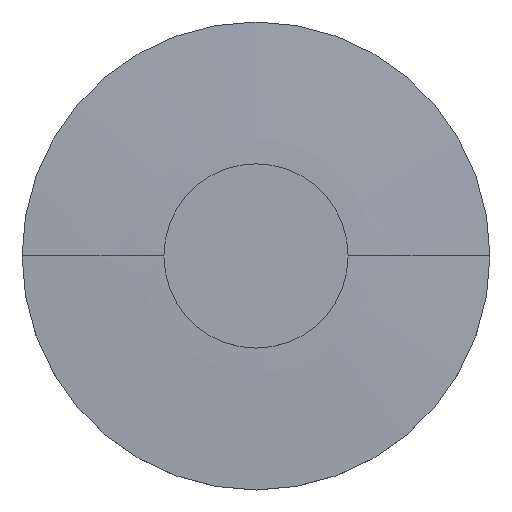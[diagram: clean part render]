
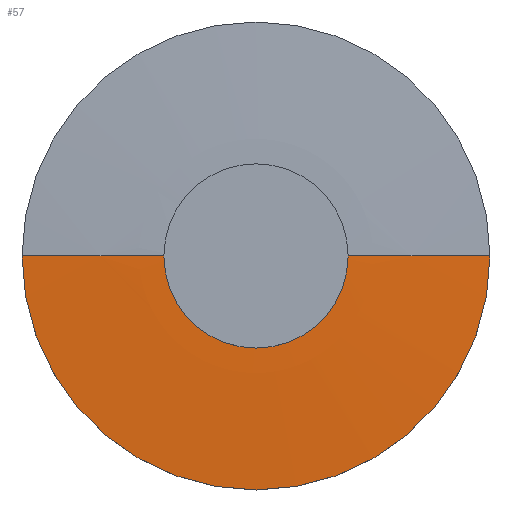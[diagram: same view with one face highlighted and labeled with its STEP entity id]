
A CAD part, top view. The second image highlights one B-rep face of the part: STEP entity #57.
In plain terms, the highlighted spherical face has radius 529.942 mm.
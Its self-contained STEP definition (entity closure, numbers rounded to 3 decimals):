
#57=ADVANCED_FACE('',(#71),#72,.T.);
#71=FACE_OUTER_BOUND('',#91,.T.);
#72=SPHERICAL_SURFACE('',#92,529.942);
#91=EDGE_LOOP('',(#124,#125,#126));
#92=AXIS2_PLACEMENT_3D('',#127,#128,#129);
#124=ORIENTED_EDGE('',*,*,#173,.T.);
#125=ORIENTED_EDGE('',*,*,#174,.T.);
#126=ORIENTED_EDGE('',*,*,#175,.T.);
#127=CARTESIAN_POINT('',(0.0,0.0,-521.442));
#128=DIRECTION('',(0.0,0.0,1.0));
#129=DIRECTION('',(1.0,0.0,0.0));
#173=EDGE_CURVE('',#189,#194,#195,.T.);
#174=EDGE_CURVE('',#194,#191,#196,.T.);
#175=EDGE_CURVE('',#191,#189,#197,.T.);
#189=VERTEX_POINT('',#215);
#191=VERTEX_POINT('',#218);
#194=VERTEX_POINT('',#222);
#195=CIRCLE('',#223,529.942);
#196=CIRCLE('',#224,529.942);
#197=CIRCLE('',#225,25.4);
#215=CARTESIAN_POINT('',(25.4,0.,7.891));
#218=CARTESIAN_POINT('',(-25.4,0.,7.891));
#222=CARTESIAN_POINT('',(0.0,0.0,8.5));
#223=AXIS2_PLACEMENT_3D('',#253,#254,#255);
#224=AXIS2_PLACEMENT_3D('',#256,#257,#258);
#225=AXIS2_PLACEMENT_3D('',#259,#260,#261);
#253=CARTESIAN_POINT('',(0.0,0.0,-521.442));
#254=DIRECTION('',(0.,-1.0,0.0));
#255=DIRECTION('',(0.0,0.0,1.0));
#256=CARTESIAN_POINT('',(0.0,0.0,-521.442));
#257=DIRECTION('',(0.,-1.0,0.0));
#258=DIRECTION('',(0.0,0.0,1.0));
#259=CARTESIAN_POINT('',(0.0,0.0,7.891));
#260=DIRECTION('',(0.0,0.0,1.0));
#261=DIRECTION('',(1.0,0.0,0.0));
